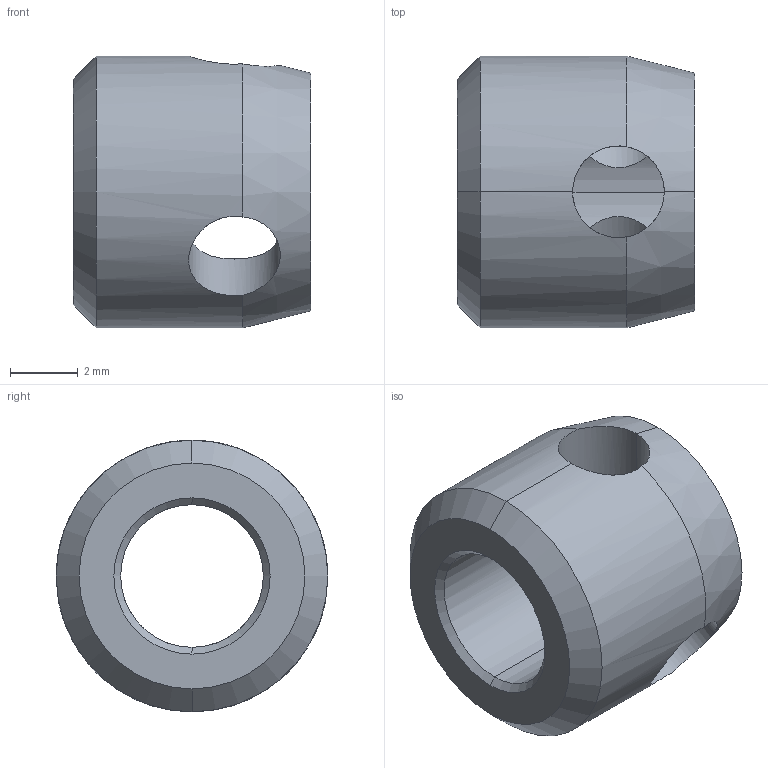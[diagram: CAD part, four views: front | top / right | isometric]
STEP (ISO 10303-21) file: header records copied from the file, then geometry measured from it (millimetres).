
FILE_DESCRIPTION (( 'STEP AP203' ), '1' );
FILE_NAME ('FSUK-SCRS-M05-07.STEP', '2021-08-05T12:52:32', ( '' ), ( '' ), 'SwSTEP 2.0', 'SolidWorks 2021', '' );
FILE_SCHEMA (( 'CONFIG_CONTROL_DESIGN' ));
Length unit declared in the file: millimetre
Products named in the file (1): FSUK-SCRS-M05-07
Bounding box: 7 x 8 x 8 mm (x, y, z)
Volume: 204 mm3; surface area: 327.7 mm2
Topology: 1 solids, 1 shells, 20 faces, 55 edges, 33 vertices
Faces by surface type: cylinder 10, cone 8, plane 2
Entity records: 962 total; most frequent: CARTESIAN_POINT 385, ORIENTED_EDGE 110, DIRECTION 97, EDGE_CURVE 55, AXIS2_PLACEMENT_3D 39, VERTEX_POINT 33, EDGE_LOOP 24, ADVANCED_FACE 20
